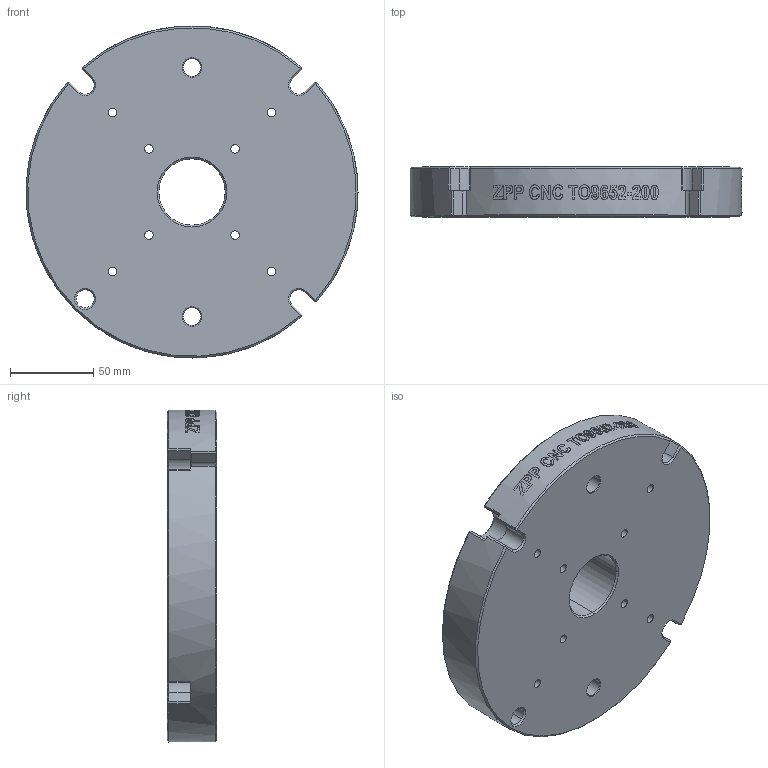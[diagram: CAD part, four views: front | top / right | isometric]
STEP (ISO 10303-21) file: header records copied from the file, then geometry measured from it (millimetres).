
FILE_DESCRIPTION((''),'2;1');
FILE_NAME('TO9652-200','2025-08-08T18:44:53',('XF'),(''),'CREO PARAMETRIC BY PTC INC, 2023073','CREO PARAMETRIC BY PTC INC, 2023073','');
FILE_SCHEMA(('CONFIG_CONTROL_DESIGN'));
Length unit declared in the file: millimetre
Products named in the file (1): TO9652-200
Bounding box: 200 x 30 x 200 mm (x, y, z)
Volume: 821714.1 mm3; surface area: 98235.3 mm2
Topology: 1 solids, 2 shells, 523 faces, 1421 edges, 934 vertices
Faces by surface type: extrusion 197, plane 138, cylinder 111, cone 61, torus 16
Entity records: 19261 total; most frequent: CARTESIAN_POINT 6544, ORIENTED_EDGE 2822, DIRECTION 2183, EDGE_CURVE 1413, VERTEX_POINT 934, VECTOR 775, AXIS2_PLACEMENT_3D 704, B_SPLINE_CURVE_WITH_KNOTS 655
